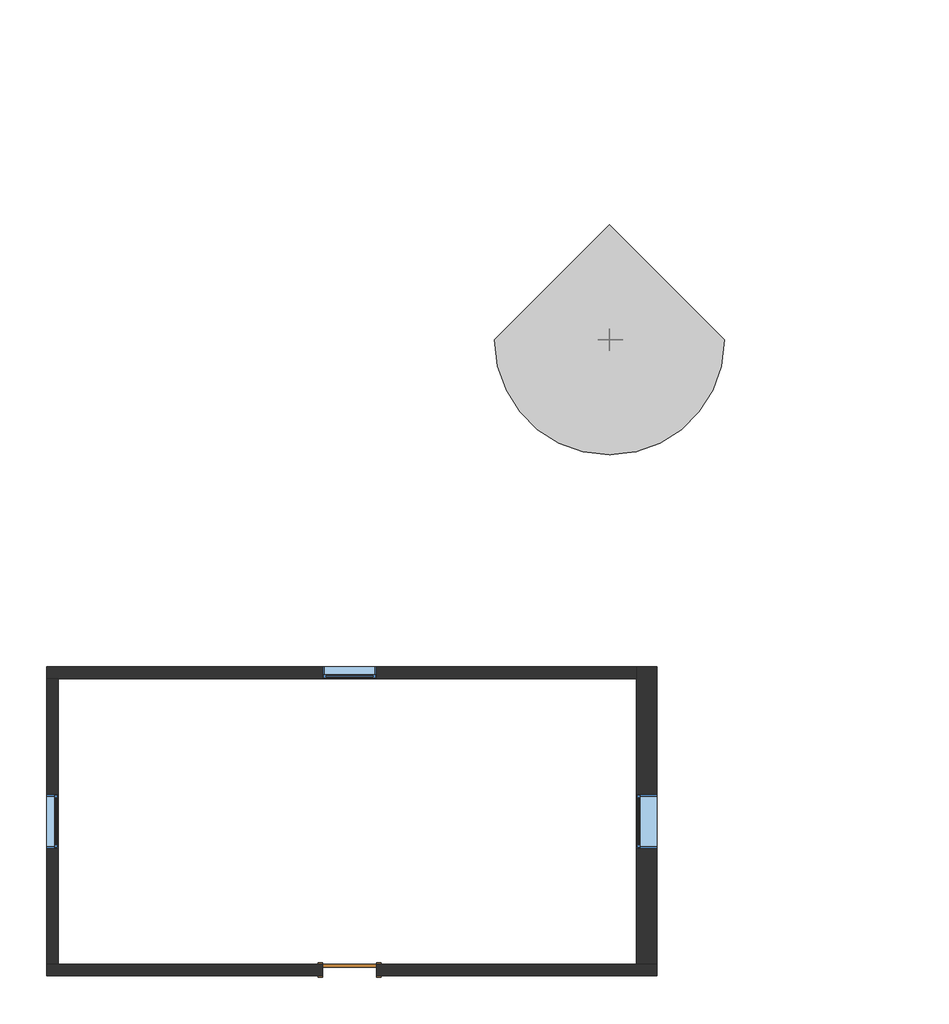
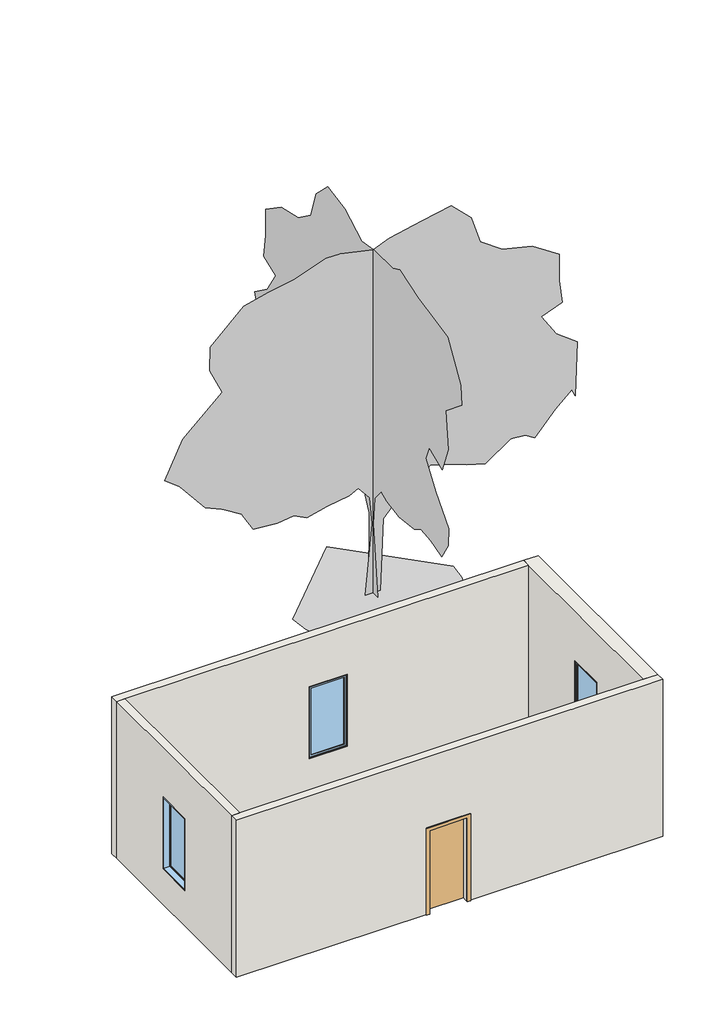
# One storey: 4 walls, 3 windows, 1 door, 1 geographic element.
"""IFC4 building model written with IfcOpenShell, lengths in millimetres."""

from ifc_helpers import new_model, si_unit, frame, origin, place, context, project, spatial, polyline, outline, extrude, faceted_brep, transform, mapped, element, save
from components import door_0915_x_2134mm_6a9e8738, geographic_element_c94a29e7, window_0915_x_1830mm_5d6e8bc1, window_0915_x_1830mm_e21fde83

model = new_model("IFC4")

# Units and contexts
model_context = context("Model", 3, world=origin())
ifc_project = project(units=[si_unit("LENGTHUNIT", "METRE", prefix="MILLI")], contexts=[model_context])

# Site, building, storey
site = spatial("IfcSite", under=ifc_project)
building = spatial("IfcBuilding", under=site)
storey = spatial("IfcBuildingStorey", under=building, Name="レベル 1", Elevation=0.0)

# Door
placement = place(None, origin())
door_0915_x_2134mm_shape = door_0915_x_2134mm_6a9e8738(model_context)
element("IfcDoor", 1, ObjectType="片側フラッシュ : 0915 x 2134mm", at=placement, inside=storey, context=model_context, shape_type="MappedRepresentation", body=[
    mapped(door_0915_x_2134mm_shape, transform((0.0, -2500.0000038, 0.0), x_axis=(1.0, 0.0, 0.0), y_axis=(0.0, 1.0, 0.0), z_axis=(0.0, 0.0, 1.0))),
])

# Geographic element
geographic_element_shape = geographic_element_c94a29e7(model_context)
element("IfcGeographicElement", 2, ObjectType="RPC 木 - 秋 : ハナミズキ - 9.2 メートル", at=placement, inside=storey, context=model_context, shape_type="MappedRepresentation", body=[
    mapped(geographic_element_shape, transform((4375.0000076, 8100.0000038, 0.0), x_axis=(1.0, 0.0, 0.0), y_axis=(0.0, 1.0, 0.0), z_axis=(0.0, 0.0, 1.0))),
])

# Walls
element("IfcWall", 3, ObjectType="一般 - 200 mm", at=placement, inside=storey, context=model_context, shape_type="Brep", body=[
    faceted_brep([(457.5, -2600.0000038, 2134.0), (457.5, -2600.0000038, 0.0), (5175.0000076, -2600.0000038, 0.0), (5175.0000076, -2600.0000038, 4000.0), (-5100.0000076, -2600.0000038, 4000.0), (-5100.0000076, -2600.0000038, 0.0), (-457.5, -2600.0000038, 0.0), (-457.5, -2600.0000038, 2134.0), (5175.0000076, -2400.0000038, 0.0), (4825.0000076, -2400.0000038, 0.0), (457.5, -2400.0000038, 0.0), (457.5, -2400.0000038, 2134.0), (-457.5, -2400.0000038, 2134.0), (-457.5, -2400.0000038, 0.0), (-4900.0000076, -2400.0000038, 0.0), (-5100.0000076, -2400.0000038, 0.0), (-5100.0000076, -2400.0000038, 4000.0), (-4900.0000076, -2400.0000038, 4000.0), (4825.0000076, -2400.0000038, 4000.0), (5175.0000076, -2400.0000038, 4000.0)], [[[0, 1, 2, 3, 4, 5, 6, 7]], [[8, 9, 10, 11, 12, 13, 14, 15, 16, 17, 18, 19]], [[6, 5, 15, 14, 13]], [[2, 1, 10, 9, 8]], [[4, 3, 19, 18, 17, 16]], [[3, 2, 8, 19]], [[5, 4, 16, 15]], [[11, 10, 1, 0]], [[12, 11, 0, 7]], [[13, 12, 7, 6]]]),
])
element("IfcWall", 4, ObjectType="外壁 - メタル スタッドのレンガ", at=placement, inside=storey, context=model_context, shape_type="Brep", body=[
    faceted_brep([(5175.0000076, -2400.0000038, 0.0), (5175.0000076, 2600.0000038, 0.0), (5175.0000076, 2600.0000038, 4000.0), (5175.0000076, -2400.0000038, 4000.0), (5175.0000076, -457.5, 915.0000014), (5175.0000076, -457.5, 2745.0000014), (5175.0000076, 457.5, 2745.0000014), (5175.0000076, 457.5, 915.0000014), (4825.0000076, -2400.0000038, 0.0), (4825.0000076, -2400.0000038, 4000.0), (4825.0000076, 2400.0000038, 4000.0), (4825.0000076, 2600.0000038, 4000.0), (4825.0000076, 2600.0000038, 0.0), (4825.0000076, 2400.0000038, 0.0), (4825.0000076, -457.5, 915.0000014), (4825.0000076, 457.5, 915.0000014), (4825.0000076, 457.5, 2745.0000014), (4825.0000076, -457.5, 2745.0000014)], [[[0, 1, 2, 3], [4, 5, 6, 7]], [[8, 9, 10, 11, 12, 13], [14, 15, 16, 17]], [[1, 0, 8, 13, 12]], [[3, 2, 11, 10, 9]], [[2, 1, 12, 11]], [[0, 3, 9, 8]], [[5, 4, 14, 17]], [[6, 5, 17, 16]], [[7, 6, 16, 15]], [[4, 7, 15, 14]]]),
])
element("IfcWall", 5, ObjectType="一般 - 200 mm", at=placement, inside=storey, context=model_context, shape_type="Brep", body=[
    faceted_brep([(4825.0000076, 2600.0000038, 0.0), (-5100.0000076, 2600.0000038, 0.0), (-5100.0000076, 2600.0000038, 4000.0), (4825.0000076, 2600.0000038, 4000.0), (457.5, 2600.0000038, 915.0000014), (457.5, 2600.0000038, 2745.0000014), (-457.5, 2600.0000038, 2745.0000014), (-457.5, 2600.0000038, 915.0000014), (4825.0000076, 2400.0000038, 0.0), (4825.0000076, 2400.0000038, 4000.0), (-4900.0000076, 2400.0000038, 4000.0), (-5100.0000076, 2400.0000038, 4000.0), (-5100.0000076, 2400.0000038, 0.0), (-4900.0000076, 2400.0000038, 0.0), (457.5, 2400.0000038, 915.0000014), (-457.5, 2400.0000038, 915.0000014), (-457.5, 2400.0000038, 2745.0000014), (457.5, 2400.0000038, 2745.0000014)], [[[0, 1, 2, 3], [4, 5, 6, 7]], [[8, 9, 10, 11, 12, 13], [14, 15, 16, 17]], [[1, 0, 8, 13, 12]], [[3, 2, 11, 10, 9]], [[2, 1, 12, 11]], [[0, 3, 9, 8]], [[5, 4, 14, 17]], [[6, 5, 17, 16]], [[7, 6, 16, 15]], [[4, 7, 15, 14]]]),
])
element("IfcWall", 6, ObjectType="一般 - 200 mm", at=placement, inside=storey, context=model_context, shape_type="SweptSolid", body=[
    extrude(outline(polyline([(2400.0000038, 0.0), (-2400.0000038, 0.0), (-2400.0000038, 4000.0), (2400.0000038, 4000.0), (2400.0000038, 0.0)]), holes=[polyline([(457.5, 915.0000014), (457.5, 2745.0000014), (-457.5, 2745.0000014), (-457.5, 915.0000014), (457.5, 915.0000014)])]), frame((-5100.0000076, 0.0, 0.0), z_axis=(1.0, 0.0, 0.0), x_axis=(0.0, 1.0, 0.0)), (0.0, 0.0, 1.0), 200.0),
])

# Windows
window_0915_x_1830mm_shape = window_0915_x_1830mm_5d6e8bc1(model_context)
element("IfcWindow", 7, ObjectType="固定 : 0915 x 1830mm", at=placement, inside=storey, context=model_context, shape_type="MappedRepresentation", body=[
    mapped(window_0915_x_1830mm_shape, transform((0.0, 2513.0000038, 610.0000014), x_axis=(-1.0, 0.0, 0.0), y_axis=(0.0, -1.0, 0.0), z_axis=(0.0, 0.0, 1.0))),
])
element("IfcWindow", 8, ObjectType="固定 : 0915 x 1830mm", at=placement, inside=storey, context=model_context, shape_type="MappedRepresentation", body=[
    mapped(window_0915_x_1830mm_shape, transform((-5013.0000076, 0.0, 610.0000014), x_axis=(0.0, -1.0, 0.0), y_axis=(1.0, 0.0, 0.0), z_axis=(0.0, 0.0, 1.0))),
])
window_0915_x_1830mm_2_shape = window_0915_x_1830mm_e21fde83(model_context)
element("IfcWindow", 9, ObjectType="固定 : 0915 x 1830mm", at=placement, inside=storey, context=model_context, shape_type="MappedRepresentation", body=[
    mapped(window_0915_x_1830mm_2_shape, transform((5013.0000076, 0.0, 610.0000014), x_axis=(0.0, 1.0, 0.0), y_axis=(-1.0, 0.0, 0.0), z_axis=(0.0, 0.0, 1.0))),
])

save(model, "model.ifc")
